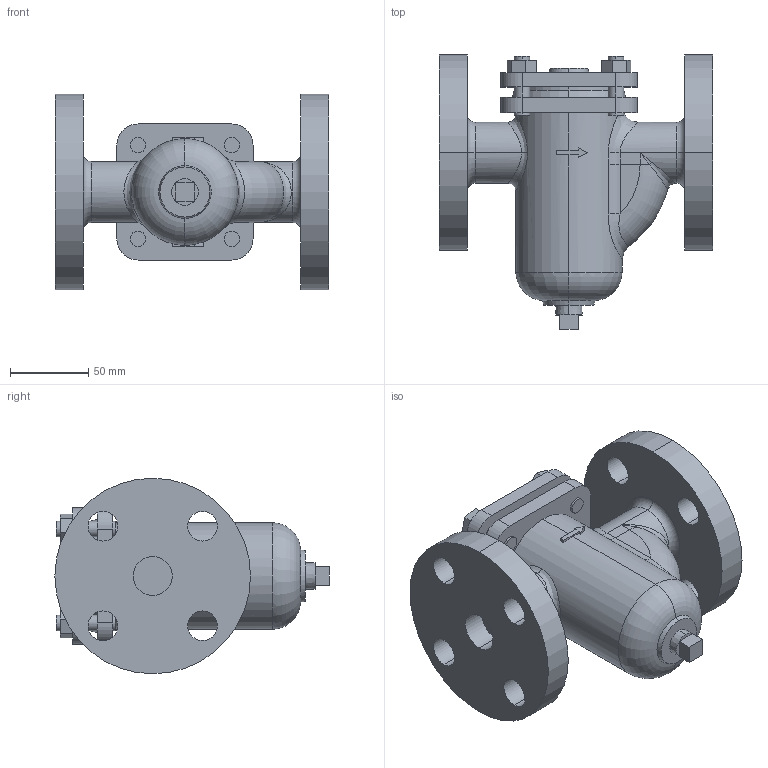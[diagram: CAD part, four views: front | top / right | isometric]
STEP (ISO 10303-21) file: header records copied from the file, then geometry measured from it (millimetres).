
FILE_DESCRIPTION (( 'STEP AP203' ), '1' );
FILE_NAME ('SU-20 25A.STEP', '2025-12-12T05:56:01', ( '' ), ( '' ), 'SwSTEP 2.0', 'SolidWorks 2024', '' );
FILE_SCHEMA (( 'CONFIG_CONTROL_DESIGN' ));
Length unit declared in the file: millimetre
Products named in the file (1): SU-20 25A
Bounding box: 175 x 175.2 x 125 mm (x, y, z)
Volume: 1115577.1 mm3; surface area: 132230 mm2
Topology: 1 solids, 1 shells, 177 faces, 431 edges, 279 vertices
Faces by surface type: plane 83, cylinder 70, cone 8, bspline 7, torus 7, sphere 2
Entity records: 6816 total; most frequent: CARTESIAN_POINT 2445, DIRECTION 926, ORIENTED_EDGE 858, EDGE_CURVE 429, AXIS2_PLACEMENT_3D 348, VERTEX_POINT 279, LINE 230, VECTOR 230
